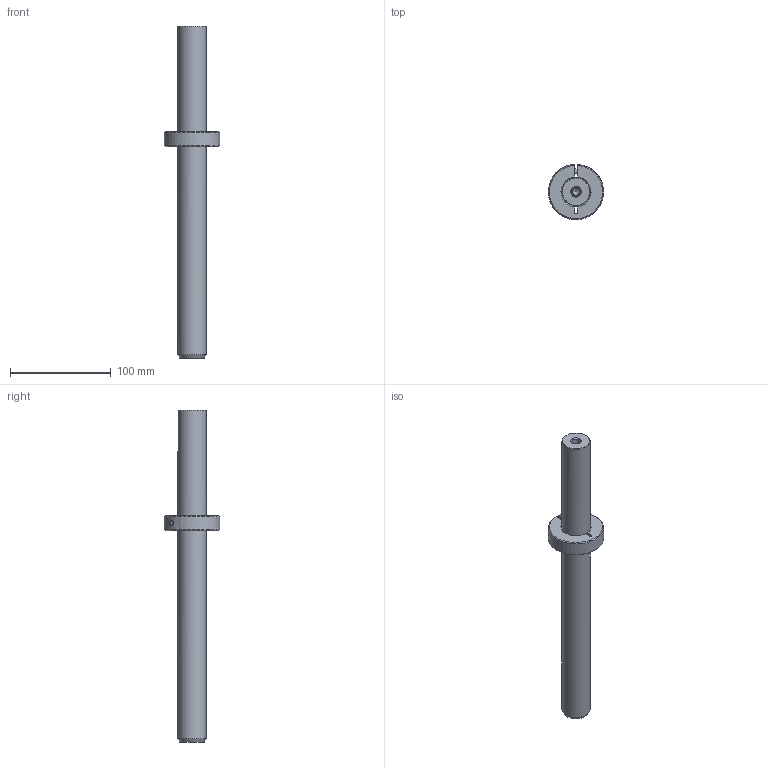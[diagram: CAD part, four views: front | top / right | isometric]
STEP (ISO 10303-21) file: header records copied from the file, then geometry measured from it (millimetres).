
FILE_DESCRIPTION( ('This file contains a STEP AP42 implementation' ,'as created by ZW3D STEP Interface translator.') ,'2;1' );
FILE_NAME( 'TW28X.stp' ,'14 411.132559', (''), ('ZWCAD Software Co.'), 'Version 1.0', 'ZW3D to STEP translator', '' );
FILE_SCHEMA( ('CONFIG_CONTROL_DESIGN') );
Length unit declared in the file: millimetre
Products named in the file (7): 0; TW28X; 3205308_TW28X; 3008840a; Skizze2; Schraube M5x10_DIN912; 3008852_Stellring ø28
Assembly tree (4 placements, depth 3):
  0
  TW28X
    3205308_TW28X
      3008840a
      Schraube M5x10_DIN912
      3008852_Stellring ø28
  Skizze2
Bounding box: 55 x 54.93 x 330 mm (x, y, z)
Volume: 224596.1 mm3; surface area: 39675.9 mm2
Topology: 3 solids, 3 shells, 46 faces, 103 edges, 66 vertices
Faces by surface type: bspline 46
Entity records: 2248 total; most frequent: CARTESIAN_POINT 1440, ORIENTED_EDGE 204, EDGE_CURVE 102, VERTEX_POINT 66, B_SPLINE_CURVE_WITH_KNOTS 58, EDGE_LOOP 54, FACE_OUTER_BOUND 46, ADVANCED_FACE 46
